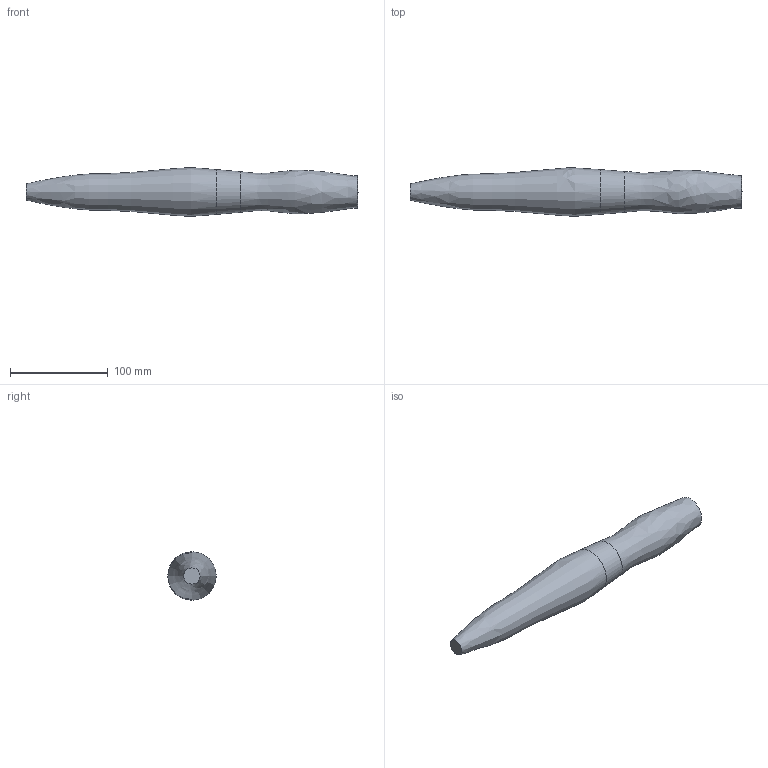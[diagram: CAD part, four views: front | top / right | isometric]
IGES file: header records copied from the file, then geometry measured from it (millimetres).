
Global section: file name: No Iges File Name specified; native system: Autodesk Inventor 2009; preprocessor: AutoDesk Inventor Iges Exporter R2009; author: Oliver Liedtke; date: 20090511.134717; units: millimetre
Bounding box: 340.1 x 49.93 x 50.02 mm (x, y, z)
Volume: 431360.6 mm3; surface area: 43518.5 mm2
Topology: 1 solids, 1 shells, 6 faces, 12 edges, 6 vertices
Faces by surface type: bspline 3, cone 2, plane 1
